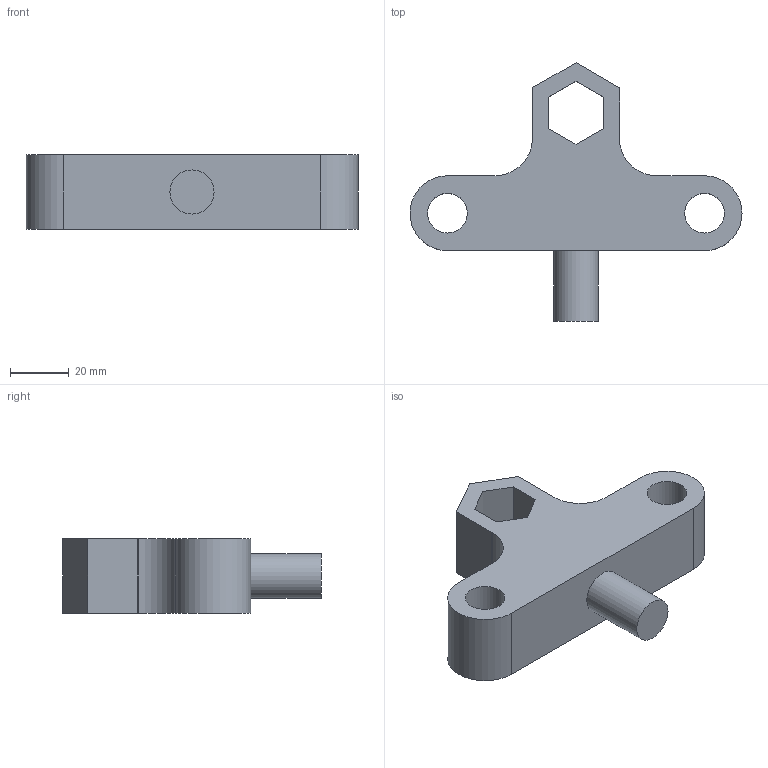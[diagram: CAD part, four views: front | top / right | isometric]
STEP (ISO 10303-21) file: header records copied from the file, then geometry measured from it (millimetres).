
FILE_DESCRIPTION(/* description */ ('STEP AP242 Edition 2','CAx-IF Rec.Pracs.---Representation and Presentation of Product Manufacturing Information (PMI)---4.0---2014-10-13','CAx-IF Rec.Pracs.---3D Tessellated Geometry---0.4---2014-09-14','2;1','CAx-IF Rec.Pracs.---User Defined Attributes---1.5---2016-08-15'),/* implementation_level */ '2;1');
FILE_NAME(/* name */ 'Assembly V2 - Part 9',/* time_stamp */ '2026-02-05T22:44:43Z',/* author */ (''),/* organization */ (''),/* preprocessor_version */ 'ST-DEVELOPER v20',/* originating_system */ 'ONSHAPE BY PTC INC, 1.210',/* authorisation */ ' ');
FILE_SCHEMA (('AP242_MANAGED_MODEL_BASED_3D_ENGINEERING_MIM_LF { 1 0 10303 442 3 1 4 }'));
Length unit declared in the file: metre
Products named in the file (1): Part 9
Bounding box: 112.62 x 87.72 x 25.4 mm (x, y, z)
Volume: 85932 mm3; surface area: 19149.3 mm2
Topology: 1 solids, 1 shells, 25 faces, 67 edges, 45 vertices
Faces by surface type: plane 18, cylinder 7
Full cylindrical faces by diameter (mm): 13.462 x2, 15 x1
Entity records: 793 total; most frequent: CARTESIAN_POINT 133, DIRECTION 129, ORIENTED_EDGE 126, EDGE_CURVE 63, LINE 49, VECTOR 49, VERTEX_POINT 44, AXIS2_PLACEMENT_3D 40
